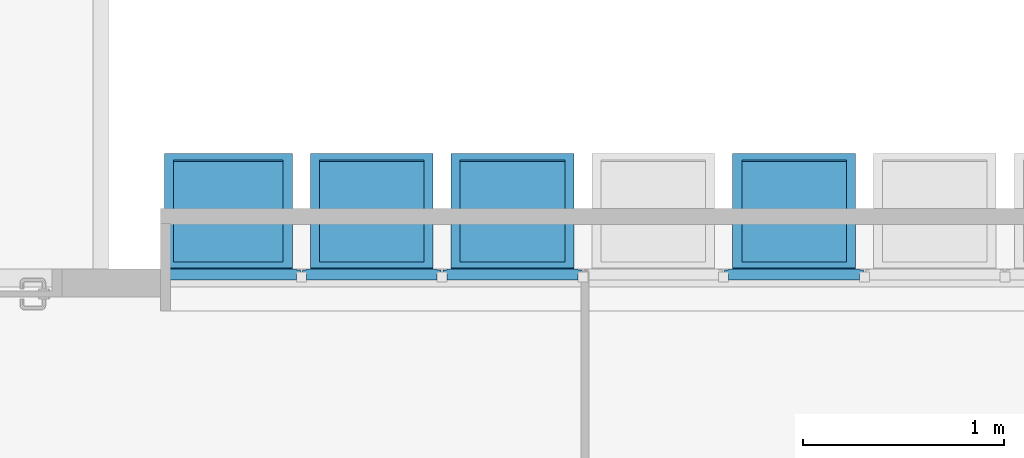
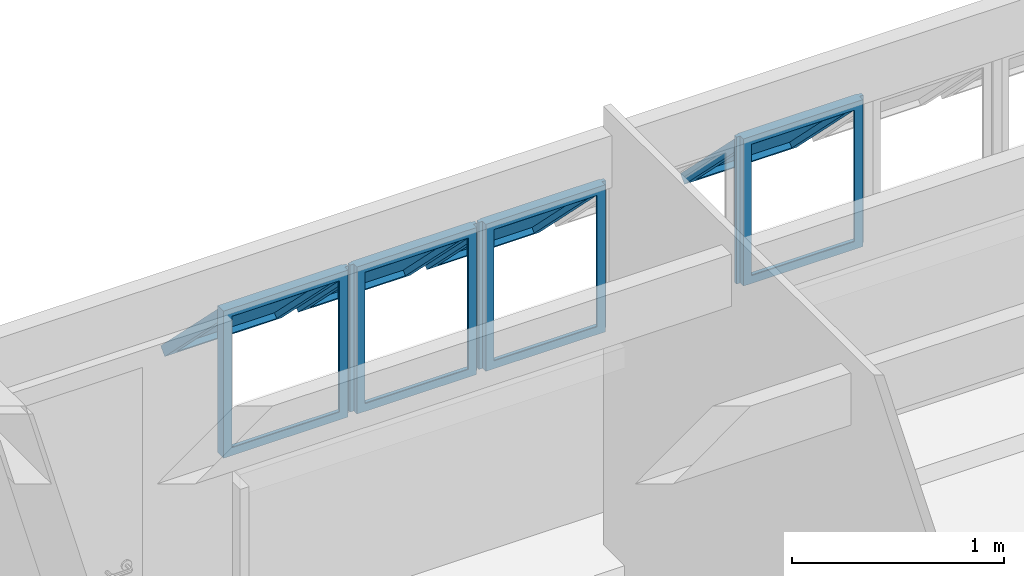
# One storey, part 9 of 40: 4 plates, 1 element without a shape of its own.
"""IFC4 building model written with IfcOpenShell, lengths in millimetres."""

from ifc_helpers import new_model, entity, si_unit, converted_unit, derived_unit, direction, frame, origin_with_axes, place, context, subcontext, project, spatial, polygons, source, transform, mapped, material, constituent, constituent_set, type_object, element, aggregate, save


model = new_model("IFC4")

# Units and contexts
model_context = context("Model", 3, precision=0.01, world=origin_with_axes(), true_north=direction((0.0, 1.0)))
body_context = subcontext(model_context, "Body", "Model", "MODEL_VIEW")
ifc_project = project(units=[si_unit("LENGTHUNIT", "METRE", prefix="MILLI"), si_unit("AREAUNIT", "SQUARE_METRE"), si_unit("VOLUMEUNIT", "CUBIC_METRE"), converted_unit("PLANEANGLEUNIT", "DEGREE", entity("IfcPlaneAngleMeasure", 0.0174532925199), si_unit("PLANEANGLEUNIT", "RADIAN"), dimensions=[0, 0, 0, 0, 0, 0, 0]), converted_unit("TIMEUNIT", "Year", entity("IfcTimeMeasure", 31556926.0), si_unit("TIMEUNIT", "SECOND"), dimensions=[0, 0, 1, 0, 0, 0, 0]), si_unit("MASSUNIT", "GRAM", prefix="KILO"), si_unit("THERMODYNAMICTEMPERATUREUNIT", "DEGREE_CELSIUS"), si_unit("LUMINOUSINTENSITYUNIT", "LUMEN"), si_unit("ENERGYUNIT", "JOULE", prefix="MEGA"), derived_unit("THERMALCONDUCTANCEUNIT", [(si_unit("POWERUNIT", "WATT"), 1), (si_unit("LENGTHUNIT", "METRE"), -1), (si_unit("THERMODYNAMICTEMPERATUREUNIT", "KELVIN"), -1)]), derived_unit("SPECIFICHEATCAPACITYUNIT", [(si_unit("ENERGYUNIT", "JOULE"), 1), (si_unit("MASSUNIT", "GRAM", prefix="KILO"), -1), (si_unit("THERMODYNAMICTEMPERATUREUNIT", "KELVIN"), -1)]), derived_unit("MASSDENSITYUNIT", [(si_unit("MASSUNIT", "GRAM", prefix="KILO"), 1), (si_unit("VOLUMEUNIT", "CUBIC_METRE"), -1)])], contexts=[model_context])

# Site, building, storey
site_placement = place(None, origin_with_axes())
site = spatial("IfcSite", under=ifc_project, at=site_placement, Name="Local", CompositionType="ELEMENT")
building_placement = place(site_placement, origin_with_axes())
building = spatial("IfcBuilding", under=site, at=building_placement, Name="Construção", CompositionType="ELEMENT")
storey_placement = place(building_placement, frame((0.0, 0.0, 5300.0), z_axis=(0.0, 0.0, 1.0), x_axis=(1.0, 0.0, 0.0)))
storey = spatial("IfcBuildingStorey", under=building, at=storey_placement, Name="Terceiro Pavimento", CompositionType="ELEMENT", Elevation=5300.0)

# Window, plates
window_type = type_object("IfcWindowType", Name="Tipo de Parede Cortina", PartitioningType="NOTDEFINED", PredefinedType="NOTDEFINED")
window_placement = place(storey_placement, frame((12020.0, 8250.0, 1355.00007107), z_axis=(0.0, 0.0, 1.0), x_axis=(1.0, 0.0, 0.0)))
window = element("IfcWindow", 1, at=window_placement, inside=storey, type_object=window_type, Name="APTO10-JANELA-000", PredefinedType="NOTDEFINED")
ifc_material_1 = material(Name="Alumínio")
ifc_constituent_1 = constituent(ifc_material_1, Name="Alumínio")
ifc_material_2 = material(Name="Vidro")
ifc_constituent_2 = constituent(ifc_material_2, Name="Vidro")
ifc_constituent_set_1 = constituent_set(constituents=[ifc_constituent_1, ifc_constituent_2])
plate_type_1 = type_object("IfcPlateType", Name="Painel Principal 690 x 845 x 20", PredefinedType="CURTAIN_PANEL")
shared_shape_1 = source(origin_with_axes(), body_context, "Body", "Tessellation", [
    polygons([(25.0000036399, 0.0, -40.0), (674.999997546, 0.0, -40.0), (674.999997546, 0.0, -35.0), (25.0000036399, 0.0, -35.0), (70.0000036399, 45.0, -40.0), (629.999997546, 45.0, -40.0), (629.999997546, 45.0, -35.0), (70.0000036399, 45.0, -35.0)], [[[1, 2, 3, 4]], [[1, 5, 6, 2]], [[2, 6, 7, 3]], [[4, 3, 7, 8]], [[5, 1, 4, 8]], [[6, 5, 8, 7]]], closed=True),
    polygons([(674.999997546, 0.0, -40.0), (674.999997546, 844.999891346, -40.0), (674.999997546, 844.999891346, -35.0), (674.999997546, 0.0, -35.0), (629.999997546, 45.0, -40.0), (629.999997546, 799.999891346, -40.0), (629.999997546, 799.999891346, -35.0), (629.999997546, 45.0, -35.0)], [[[1, 2, 3, 4]], [[1, 5, 6, 2]], [[2, 6, 7, 3]], [[4, 3, 7, 8]], [[5, 1, 4, 8]], [[6, 5, 8, 7]]], closed=True),
    polygons([(25.0000036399, 844.999891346, -40.0), (70.0000036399, 799.999891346, -40.0), (70.0000036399, 799.999891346, -35.0), (25.0000036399, 844.999891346, -35.0), (674.999997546, 844.999891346, -40.0), (629.999997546, 799.999891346, -40.0), (629.999997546, 799.999891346, -35.0), (674.999997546, 844.999891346, -35.0)], [[[1, 2, 3, 4]], [[1, 5, 6, 2]], [[2, 6, 7, 3]], [[4, 3, 7, 8]], [[5, 1, 4, 8]], [[6, 5, 8, 7]]], closed=True),
    polygons([(25.0000036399, 0.0, -40.0), (70.0000036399, 45.0, -40.0), (70.0000036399, 45.0, -35.0), (25.0000036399, 0.0, -35.0), (25.0000036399, 844.999891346, -40.0), (70.0000036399, 799.999891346, -40.0), (70.0000036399, 799.999891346, -35.0), (25.0000036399, 844.999891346, -35.0)], [[[1, 2, 3, 4]], [[1, 5, 6, 2]], [[2, 6, 7, 3]], [[4, 3, 7, 8]], [[5, 1, 4, 8]], [[6, 5, 8, 7]]], closed=True),
    polygons([(25.0000036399, 0.0, -35.0), (674.999997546, 0.0, -35.0), (674.999997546, 0.0, 15.0), (25.0000036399, 0.0, 15.0), (45.0000036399, 20.0, -35.0), (654.999997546, 20.0, -35.0), (654.999997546, 20.0, 15.0), (45.0000036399, 20.0, 15.0)], [[[1, 2, 3, 4]], [[1, 5, 6, 2]], [[2, 6, 7, 3]], [[4, 3, 7, 8]], [[5, 1, 4, 8]], [[6, 5, 8, 7]]], closed=True),
    polygons([(674.999997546, 0.0, -35.0), (674.999997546, 844.999891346, -35.0), (674.999997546, 844.999891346, 15.0), (674.999997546, 0.0, 15.0), (654.999997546, 20.0, -35.0), (654.999997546, 824.999891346, -35.0), (654.999997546, 824.999891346, 15.0), (654.999997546, 20.0, 15.0)], [[[1, 2, 3, 4]], [[1, 5, 6, 2]], [[2, 6, 7, 3]], [[4, 3, 7, 8]], [[5, 1, 4, 8]], [[6, 5, 8, 7]]], closed=True),
    polygons([(25.0000036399, 844.999891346, -35.0), (45.0000036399, 824.999891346, -35.0), (45.0000036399, 824.999891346, 15.0), (25.0000036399, 844.999891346, 15.0), (674.999997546, 844.999891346, -35.0), (654.999997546, 824.999891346, -35.0), (654.999997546, 824.999891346, 15.0), (674.999997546, 844.999891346, 15.0)], [[[1, 2, 3, 4]], [[1, 5, 6, 2]], [[2, 6, 7, 3]], [[4, 3, 7, 8]], [[5, 1, 4, 8]], [[6, 5, 8, 7]]], closed=True),
    polygons([(25.0000036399, 0.0, -35.0), (45.0000036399, 20.0, -35.0), (45.0000036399, 20.0, 15.0), (25.0000036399, 0.0, 15.0), (25.0000036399, 844.999891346, -35.0), (45.0000036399, 824.999891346, -35.0), (45.0000036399, 824.999891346, 15.0), (25.0000036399, 844.999891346, 15.0)], [[[1, 2, 3, 4]], [[1, 5, 6, 2]], [[2, 6, 7, 3]], [[4, 3, 7, 8]], [[5, 1, 4, 8]], [[6, 5, 8, 7]]], closed=True),
    polygons([(694.999995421, 0.0, -10.0), (694.999995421, 844.999891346, -10.0), (694.999995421, 844.999891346, 10.0), (694.999995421, 0.0, 10.0), (674.999997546, 0.0, -10.0), (674.999997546, 844.999891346, -10.0), (674.999997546, 844.999891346, 10.0), (674.999997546, 0.0, 10.0)], [[[1, 2, 3, 4]], [[1, 5, 6, 2]], [[2, 6, 7, 3]], [[4, 3, 7, 8]], [[5, 1, 4, 8]], [[6, 5, 8, 7]]], closed=True),
    polygons([(5.00000576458, 844.999891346, -10.0), (5.00000576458, 0.0, -10.0), (5.00000576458, 0.0, 10.0), (5.00000576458, 844.999891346, 10.0), (25.0000036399, 844.999891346, -10.0), (25.0000036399, 0.0, -10.0), (25.0000036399, 0.0, 10.0), (25.0000036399, 844.999891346, 10.0)], [[[1, 2, 3, 4]], [[1, 5, 6, 2]], [[2, 6, 7, 3]], [[4, 3, 7, 8]], [[5, 1, 4, 8]], [[6, 5, 8, 7]]], closed=True),
    polygons([(90.0000036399, 252.243475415, 517.045737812), (90.0000036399, 757.824747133, 11.4644660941), (90.0000036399, 796.715620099, 50.3553390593), (90.0000036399, 291.13434838, 555.936610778), (45.0000036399, 220.423670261, 548.865542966), (45.0000036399, 789.644552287, -20.3553390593), (45.0000036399, 828.535425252, 18.5355339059), (45.0000036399, 259.314543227, 587.756415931)], [[[1, 2, 3, 4]], [[1, 5, 6, 2]], [[2, 6, 7, 3]], [[4, 3, 7, 8]], [[5, 1, 4, 8]], [[6, 5, 8, 7]]], closed=True),
    polygons([(654.999997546, 220.423670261, 548.865542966), (654.999997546, 789.644552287, -20.3553390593), (654.999997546, 828.535425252, 18.5355339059), (654.999997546, 259.314543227, 587.756415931), (609.999997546, 252.243475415, 517.045737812), (609.999997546, 757.824747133, 11.4644660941), (609.999997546, 796.715620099, 50.3553390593), (609.999997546, 291.13434838, 555.936610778)], [[[1, 2, 3, 4]], [[1, 5, 6, 2]], [[2, 6, 7, 3]], [[4, 3, 7, 8]], [[5, 1, 4, 8]], [[6, 5, 8, 7]]], closed=True),
    polygons([(654.999997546, 220.423670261, 548.865542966), (609.999997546, 252.243475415, 517.045737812), (609.999997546, 291.13434838, 555.936610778), (654.999997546, 259.314543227, 587.756415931), (45.0000036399, 220.423670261, 548.865542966), (90.0000036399, 252.243475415, 517.045737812), (90.0000036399, 291.13434838, 555.936610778), (45.0000036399, 259.314543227, 587.756415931)], [[[1, 2, 3, 4]], [[1, 5, 6, 2]], [[2, 6, 7, 3]], [[4, 3, 7, 8]], [[5, 1, 4, 8]], [[6, 5, 8, 7]]], closed=True),
    polygons([(45.0000036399, 789.644552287, -20.3553390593), (90.0000036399, 757.824747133, 11.4644660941), (90.0000036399, 796.715620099, 50.3553390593), (45.0000036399, 828.535425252, 18.5355339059), (654.999997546, 789.644552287, -20.3553390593), (609.999997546, 757.824747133, 11.4644660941), (609.999997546, 796.715620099, 50.3553390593), (654.999997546, 828.535425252, 18.5355339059)], [[[1, 2, 3, 4]], [[1, 5, 6, 2]], [[2, 6, 7, 3]], [[4, 3, 7, 8]], [[5, 1, 4, 8]], [[6, 5, 8, 7]]], closed=True),
    polygons([(90.0000036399, 272.749572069, 537.551834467), (609.999997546, 272.749572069, 537.551834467), (609.999997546, 284.063280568, 548.865542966), (90.0000036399, 284.063280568, 548.865542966), (90.0000036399, 778.330843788, 31.9705627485), (609.999997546, 778.330843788, 31.9705627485), (609.999997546, 789.644552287, 43.2842712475), (90.0000036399, 789.644552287, 43.2842712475)], [[[1, 2, 3, 4]], [[1, 5, 6, 2]], [[2, 6, 7, 3]], [[4, 3, 7, 8]], [[5, 1, 4, 8]], [[6, 5, 8, 7]]], closed=True),
])
plate_1_placement = place(window_placement, frame((0.0, 0.0, 422.499964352), z_axis=(0.0, 0.0, 1.0), x_axis=(1.0, 0.0, 0.0)))
plate_1 = element("IfcPlate", 2, at=plate_1_placement, type_object=plate_type_1, material=ifc_constituent_set_1, Name="APTO10-Painel-Prin-013", PredefinedType="CURTAIN_PANEL", context=body_context, shape_type="MappedRepresentation", body=[
    mapped(shared_shape_1, transform((350.0, 0.0, -422.499964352), x_axis=(-1.0, 0.0, 0.0), y_axis=(0.0, 0.0, 1.0), z_axis=(0.0, 1.0, 0.0))),
])
ifc_constituent_3 = constituent(ifc_material_1, Name="Alumínio")
ifc_constituent_4 = constituent(ifc_material_2, Name="Vidro")
ifc_constituent_set_2 = constituent_set(constituents=[ifc_constituent_3, ifc_constituent_4])
plate_2_placement = place(window_placement, frame((-2100.0, 0.0, 422.499964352), z_axis=(0.0, 0.0, 1.0), x_axis=(1.0, 0.0, 0.0)))
plate_2 = element("IfcPlate", 3, at=plate_2_placement, type_object=plate_type_1, material=ifc_constituent_set_2, Name="APTO10-Painel-Prin-029", PredefinedType="CURTAIN_PANEL", context=body_context, shape_type="MappedRepresentation", body=[
    mapped(shared_shape_1, transform((350.0, 0.0, -422.499964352), x_axis=(-1.0, 0.0, 0.0), y_axis=(0.0, 0.0, 1.0), z_axis=(0.0, 1.0, 0.0))),
])
ifc_constituent_5 = constituent(ifc_material_1, Name="Alumínio")
ifc_constituent_6 = constituent(ifc_material_2, Name="Vidro")
ifc_constituent_set_3 = constituent_set(constituents=[ifc_constituent_5, ifc_constituent_6])
shared_shape_2 = source(origin_with_axes(), body_context, "Body", "Tessellation", [
    polygons([(25.0000036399, 0.0, -40.0), (674.999997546, 0.0, -40.0), (674.999997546, 0.0, -35.0), (25.0000036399, 0.0, -35.0), (70.0000036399, 45.0, -40.0), (629.999997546, 45.0, -40.0), (629.999997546, 45.0, -35.0), (70.0000036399, 45.0, -35.0)], [[[1, 2, 3, 4]], [[1, 5, 6, 2]], [[2, 6, 7, 3]], [[4, 3, 7, 8]], [[5, 1, 4, 8]], [[6, 5, 8, 7]]], closed=True),
    polygons([(674.999997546, 0.0, -40.0), (674.999997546, 844.999891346, -40.0), (674.999997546, 844.999891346, -35.0), (674.999997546, 0.0, -35.0), (629.999997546, 45.0, -40.0), (629.999997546, 799.999891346, -40.0), (629.999997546, 799.999891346, -35.0), (629.999997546, 45.0, -35.0)], [[[1, 2, 3, 4]], [[1, 5, 6, 2]], [[2, 6, 7, 3]], [[4, 3, 7, 8]], [[5, 1, 4, 8]], [[6, 5, 8, 7]]], closed=True),
    polygons([(25.0000036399, 844.999891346, -40.0), (70.0000036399, 799.999891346, -40.0), (70.0000036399, 799.999891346, -35.0), (25.0000036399, 844.999891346, -35.0), (674.999997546, 844.999891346, -40.0), (629.999997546, 799.999891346, -40.0), (629.999997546, 799.999891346, -35.0), (674.999997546, 844.999891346, -35.0)], [[[1, 2, 3, 4]], [[1, 5, 6, 2]], [[2, 6, 7, 3]], [[4, 3, 7, 8]], [[5, 1, 4, 8]], [[6, 5, 8, 7]]], closed=True),
    polygons([(25.0000036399, 0.0, -40.0), (70.0000036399, 45.0, -40.0), (70.0000036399, 45.0, -35.0), (25.0000036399, 0.0, -35.0), (25.0000036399, 844.999891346, -40.0), (70.0000036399, 799.999891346, -40.0), (70.0000036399, 799.999891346, -35.0), (25.0000036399, 844.999891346, -35.0)], [[[1, 2, 3, 4]], [[1, 5, 6, 2]], [[2, 6, 7, 3]], [[4, 3, 7, 8]], [[5, 1, 4, 8]], [[6, 5, 8, 7]]], closed=True),
    polygons([(25.0000036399, 0.0, -35.0), (674.999997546, 0.0, -35.0), (674.999997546, 0.0, 15.0), (25.0000036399, 0.0, 15.0), (45.0000036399, 20.0, -35.0), (654.999997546, 20.0, -35.0), (654.999997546, 20.0, 15.0), (45.0000036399, 20.0, 15.0)], [[[1, 2, 3, 4]], [[1, 5, 6, 2]], [[2, 6, 7, 3]], [[4, 3, 7, 8]], [[5, 1, 4, 8]], [[6, 5, 8, 7]]], closed=True),
    polygons([(674.999997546, 0.0, -35.0), (674.999997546, 844.999891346, -35.0), (674.999997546, 844.999891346, 15.0), (674.999997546, 0.0, 15.0), (654.999997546, 20.0, -35.0), (654.999997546, 824.999891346, -35.0), (654.999997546, 824.999891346, 15.0), (654.999997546, 20.0, 15.0)], [[[1, 2, 3, 4]], [[1, 5, 6, 2]], [[2, 6, 7, 3]], [[4, 3, 7, 8]], [[5, 1, 4, 8]], [[6, 5, 8, 7]]], closed=True),
    polygons([(25.0000036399, 844.999891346, -35.0), (45.0000036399, 824.999891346, -35.0), (45.0000036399, 824.999891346, 15.0), (25.0000036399, 844.999891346, 15.0), (674.999997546, 844.999891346, -35.0), (654.999997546, 824.999891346, -35.0), (654.999997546, 824.999891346, 15.0), (674.999997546, 844.999891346, 15.0)], [[[1, 2, 3, 4]], [[1, 5, 6, 2]], [[2, 6, 7, 3]], [[4, 3, 7, 8]], [[5, 1, 4, 8]], [[6, 5, 8, 7]]], closed=True),
    polygons([(25.0000036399, 0.0, -35.0), (45.0000036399, 20.0, -35.0), (45.0000036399, 20.0, 15.0), (25.0000036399, 0.0, 15.0), (25.0000036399, 844.999891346, -35.0), (45.0000036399, 824.999891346, -35.0), (45.0000036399, 824.999891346, 15.0), (25.0000036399, 844.999891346, 15.0)], [[[1, 2, 3, 4]], [[1, 5, 6, 2]], [[2, 6, 7, 3]], [[4, 3, 7, 8]], [[5, 1, 4, 8]], [[6, 5, 8, 7]]], closed=True),
    polygons([(694.999995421, 0.0, -10.0), (694.999995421, 844.999891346, -10.0), (694.999995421, 844.999891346, 10.0), (694.999995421, 0.0, 10.0), (674.999997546, 0.0, -10.0), (674.999997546, 844.999891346, -10.0), (674.999997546, 844.999891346, 10.0), (674.999997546, 0.0, 10.0)], [[[1, 2, 3, 4]], [[1, 5, 6, 2]], [[2, 6, 7, 3]], [[4, 3, 7, 8]], [[5, 1, 4, 8]], [[6, 5, 8, 7]]], closed=True),
    polygons([(5.00000576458, 844.999891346, -10.0), (5.00000576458, 0.0, -10.0), (5.00000576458, 0.0, 10.0), (5.00000576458, 844.999891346, 10.0), (25.0000036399, 844.999891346, -10.0), (25.0000036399, 0.0, -10.0), (25.0000036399, 0.0, 10.0), (25.0000036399, 844.999891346, 10.0)], [[[1, 2, 3, 4]], [[1, 5, 6, 2]], [[2, 6, 7, 3]], [[4, 3, 7, 8]], [[5, 1, 4, 8]], [[6, 5, 8, 7]]], closed=True),
    polygons([(90.0000036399, 252.243475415, 517.045737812), (90.0000036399, 757.824747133, 11.4644660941), (90.0000036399, 796.715620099, 50.3553390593), (90.0000036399, 291.13434838, 555.936610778), (45.0000036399, 220.423670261, 548.865542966), (45.0000036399, 789.644552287, -20.3553390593), (45.0000036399, 828.535425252, 18.5355339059), (45.0000036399, 259.314543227, 587.756415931)], [[[1, 2, 3, 4]], [[1, 5, 6, 2]], [[2, 6, 7, 3]], [[4, 3, 7, 8]], [[5, 1, 4, 8]], [[6, 5, 8, 7]]], closed=True),
    polygons([(654.999997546, 220.423670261, 548.865542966), (654.999997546, 789.644552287, -20.3553390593), (654.999997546, 828.535425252, 18.5355339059), (654.999997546, 259.314543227, 587.756415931), (609.999997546, 252.243475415, 517.045737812), (609.999997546, 757.824747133, 11.4644660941), (609.999997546, 796.715620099, 50.3553390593), (609.999997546, 291.13434838, 555.936610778)], [[[1, 2, 3, 4]], [[1, 5, 6, 2]], [[2, 6, 7, 3]], [[4, 3, 7, 8]], [[5, 1, 4, 8]], [[6, 5, 8, 7]]], closed=True),
    polygons([(654.999997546, 220.423670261, 548.865542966), (609.999997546, 252.243475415, 517.045737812), (609.999997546, 291.13434838, 555.936610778), (654.999997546, 259.314543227, 587.756415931), (45.0000036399, 220.423670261, 548.865542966), (90.0000036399, 252.243475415, 517.045737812), (90.0000036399, 291.13434838, 555.936610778), (45.0000036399, 259.314543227, 587.756415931)], [[[1, 2, 3, 4]], [[1, 5, 6, 2]], [[2, 6, 7, 3]], [[4, 3, 7, 8]], [[5, 1, 4, 8]], [[6, 5, 8, 7]]], closed=True),
    polygons([(45.0000036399, 789.644552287, -20.3553390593), (90.0000036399, 757.824747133, 11.4644660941), (90.0000036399, 796.715620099, 50.3553390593), (45.0000036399, 828.535425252, 18.5355339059), (654.999997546, 789.644552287, -20.3553390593), (609.999997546, 757.824747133, 11.4644660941), (609.999997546, 796.715620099, 50.3553390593), (654.999997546, 828.535425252, 18.5355339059)], [[[1, 2, 3, 4]], [[1, 5, 6, 2]], [[2, 6, 7, 3]], [[4, 3, 7, 8]], [[5, 1, 4, 8]], [[6, 5, 8, 7]]], closed=True),
    polygons([(90.0000036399, 272.749572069, 537.551834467), (609.999997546, 272.749572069, 537.551834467), (609.999997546, 284.063280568, 548.865542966), (90.0000036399, 284.063280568, 548.865542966), (90.0000036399, 778.330843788, 31.9705627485), (609.999997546, 778.330843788, 31.9705627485), (609.999997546, 789.644552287, 43.2842712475), (90.0000036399, 789.644552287, 43.2842712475)], [[[1, 2, 3, 4]], [[1, 5, 6, 2]], [[2, 6, 7, 3]], [[4, 3, 7, 8]], [[5, 1, 4, 8]], [[6, 5, 8, 7]]], closed=True),
])
plate_3_placement = place(window_placement, frame((-1400.0, 0.0, 422.499964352), z_axis=(0.0, 0.0, 1.0), x_axis=(1.0, 0.0, 0.0)))
plate_3 = element("IfcPlate", 4, at=plate_3_placement, type_object=plate_type_1, material=ifc_constituent_set_3, Name="APTO10-Painel-Prin-025", PredefinedType="CURTAIN_PANEL", context=body_context, shape_type="MappedRepresentation", body=[
    mapped(shared_shape_2, transform((350.0, 0.0, -422.499964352), x_axis=(-1.0, 0.0, 0.0), y_axis=(0.0, 0.0, 1.0), z_axis=(0.0, 1.0, 0.0))),
])
ifc_constituent_7 = constituent(ifc_material_1, Name="Alumínio")
ifc_constituent_8 = constituent(ifc_material_2, Name="Vidro")
ifc_constituent_set_4 = constituent_set(constituents=[ifc_constituent_7, ifc_constituent_8])
plate_type_2 = type_object("IfcPlateType", Name="Painel Principal 695 x 845 x 20", PredefinedType="CURTAIN_PANEL")
shared_shape_3 = source(origin_with_axes(), body_context, "Body", "Tessellation", [
    polygons([(25.0000062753, 0.0, -40.0), (699.999999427, 0.0, -40.0), (699.999999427, 0.0, -35.0), (25.0000062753, 0.0, -35.0), (70.0000062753, 45.0, -40.0), (654.999999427, 45.0, -40.0), (654.999999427, 45.0, -35.0), (70.0000062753, 45.0, -35.0)], [[[1, 2, 3, 4]], [[1, 5, 6, 2]], [[2, 6, 7, 3]], [[4, 3, 7, 8]], [[5, 1, 4, 8]], [[6, 5, 8, 7]]], closed=True),
    polygons([(699.999999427, 0.0, -40.0), (699.999999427, 844.999980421, -40.0), (699.999999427, 844.999980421, -35.0), (699.999999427, 0.0, -35.0), (654.999999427, 45.0, -40.0), (654.999999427, 799.999980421, -40.0), (654.999999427, 799.999980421, -35.0), (654.999999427, 45.0, -35.0)], [[[1, 2, 3, 4]], [[1, 5, 6, 2]], [[2, 6, 7, 3]], [[4, 3, 7, 8]], [[5, 1, 4, 8]], [[6, 5, 8, 7]]], closed=True),
    polygons([(25.0000062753, 844.999980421, -40.0), (70.0000062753, 799.999980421, -40.0), (70.0000062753, 799.999980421, -35.0), (25.0000062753, 844.999980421, -35.0), (699.999999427, 844.999980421, -40.0), (654.999999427, 799.999980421, -40.0), (654.999999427, 799.999980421, -35.0), (699.999999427, 844.999980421, -35.0)], [[[1, 2, 3, 4]], [[1, 5, 6, 2]], [[2, 6, 7, 3]], [[4, 3, 7, 8]], [[5, 1, 4, 8]], [[6, 5, 8, 7]]], closed=True),
    polygons([(25.0000062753, 0.0, -40.0), (70.0000062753, 45.0, -40.0), (70.0000062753, 45.0, -35.0), (25.0000062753, 0.0, -35.0), (25.0000062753, 844.999980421, -40.0), (70.0000062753, 799.999980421, -40.0), (70.0000062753, 799.999980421, -35.0), (25.0000062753, 844.999980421, -35.0)], [[[1, 2, 3, 4]], [[1, 5, 6, 2]], [[2, 6, 7, 3]], [[4, 3, 7, 8]], [[5, 1, 4, 8]], [[6, 5, 8, 7]]], closed=True),
    polygons([(25.0000062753, 0.0, -35.0), (699.999999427, 0.0, -35.0), (699.999999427, 0.0, 15.0), (25.0000062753, 0.0, 15.0), (45.0000062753, 20.0, -35.0), (679.999999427, 20.0, -35.0), (679.999999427, 20.0, 15.0), (45.0000062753, 20.0, 15.0)], [[[1, 2, 3, 4]], [[1, 5, 6, 2]], [[2, 6, 7, 3]], [[4, 3, 7, 8]], [[5, 1, 4, 8]], [[6, 5, 8, 7]]], closed=True),
    polygons([(699.999999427, 0.0, -35.0), (699.999999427, 844.999980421, -35.0), (699.999999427, 844.999980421, 15.0), (699.999999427, 0.0, 15.0), (679.999999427, 20.0, -35.0), (679.999999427, 824.999980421, -35.0), (679.999999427, 824.999980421, 15.0), (679.999999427, 20.0, 15.0)], [[[1, 2, 3, 4]], [[1, 5, 6, 2]], [[2, 6, 7, 3]], [[4, 3, 7, 8]], [[5, 1, 4, 8]], [[6, 5, 8, 7]]], closed=True),
    polygons([(25.0000062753, 844.999980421, -35.0), (45.0000062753, 824.999980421, -35.0), (45.0000062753, 824.999980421, 15.0), (25.0000062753, 844.999980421, 15.0), (699.999999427, 844.999980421, -35.0), (679.999999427, 824.999980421, -35.0), (679.999999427, 824.999980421, 15.0), (699.999999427, 844.999980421, 15.0)], [[[1, 2, 3, 4]], [[1, 5, 6, 2]], [[2, 6, 7, 3]], [[4, 3, 7, 8]], [[5, 1, 4, 8]], [[6, 5, 8, 7]]], closed=True),
    polygons([(25.0000062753, 0.0, -35.0), (45.0000062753, 20.0, -35.0), (45.0000062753, 20.0, 15.0), (25.0000062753, 0.0, 15.0), (25.0000062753, 844.999980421, -35.0), (45.0000062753, 824.999980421, -35.0), (45.0000062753, 824.999980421, 15.0), (25.0000062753, 844.999980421, 15.0)], [[[1, 2, 3, 4]], [[1, 5, 6, 2]], [[2, 6, 7, 3]], [[4, 3, 7, 8]], [[5, 1, 4, 8]], [[6, 5, 8, 7]]], closed=True),
    polygons([(5.00000629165, 844.999980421, -10.0), (5.00000629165, 0.0, -10.0), (5.00000629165, 0.0, 10.0), (5.00000629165, 844.999980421, 10.0), (25.0000062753, 844.999980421, -10.0), (25.0000062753, 0.0, -10.0), (25.0000062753, 0.0, 10.0), (25.0000062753, 844.999980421, 10.0)], [[[1, 2, 3, 4]], [[1, 5, 6, 2]], [[2, 6, 7, 3]], [[4, 3, 7, 8]], [[5, 1, 4, 8]], [[6, 5, 8, 7]]], closed=True),
    polygons([(90.0000062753, 252.243501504, 517.045800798), (90.0000062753, 757.824836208, 11.4644660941), (90.0000062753, 796.715709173, 50.3553390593), (90.0000062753, 291.134374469, 555.936673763), (45.0000062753, 220.423696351, 548.865605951), (45.0000062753, 789.644641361, -20.3553390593), (45.0000062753, 828.535514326, 18.5355339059), (45.0000062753, 259.314569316, 587.756478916)], [[[1, 2, 3, 4]], [[1, 5, 6, 2]], [[2, 6, 7, 3]], [[4, 3, 7, 8]], [[5, 1, 4, 8]], [[6, 5, 8, 7]]], closed=True),
    polygons([(679.999999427, 220.423696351, 548.865605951), (679.999999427, 789.644641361, -20.3553390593), (679.999999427, 828.535514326, 18.5355339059), (679.999999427, 259.314569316, 587.756478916), (634.999999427, 252.243501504, 517.045800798), (634.999999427, 757.824836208, 11.4644660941), (634.999999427, 796.715709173, 50.3553390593), (634.999999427, 291.134374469, 555.936673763)], [[[1, 2, 3, 4]], [[1, 5, 6, 2]], [[2, 6, 7, 3]], [[4, 3, 7, 8]], [[5, 1, 4, 8]], [[6, 5, 8, 7]]], closed=True),
    polygons([(679.999999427, 220.423696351, 548.865605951), (634.999999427, 252.243501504, 517.045800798), (634.999999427, 291.134374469, 555.936673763), (679.999999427, 259.314569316, 587.756478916), (45.0000062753, 220.423696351, 548.865605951), (90.0000062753, 252.243501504, 517.045800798), (90.0000062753, 291.134374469, 555.936673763), (45.0000062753, 259.314569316, 587.756478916)], [[[1, 2, 3, 4]], [[1, 5, 6, 2]], [[2, 6, 7, 3]], [[4, 3, 7, 8]], [[5, 1, 4, 8]], [[6, 5, 8, 7]]], closed=True),
    polygons([(45.0000062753, 789.644641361, -20.3553390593), (90.0000062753, 757.824836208, 11.4644660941), (90.0000062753, 796.715709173, 50.3553390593), (45.0000062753, 828.535514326, 18.5355339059), (679.999999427, 789.644641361, -20.3553390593), (634.999999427, 757.824836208, 11.4644660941), (634.999999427, 796.715709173, 50.3553390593), (679.999999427, 828.535514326, 18.5355339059)], [[[1, 2, 3, 4]], [[1, 5, 6, 2]], [[2, 6, 7, 3]], [[4, 3, 7, 8]], [[5, 1, 4, 8]], [[6, 5, 8, 7]]], closed=True),
    polygons([(90.0000062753, 272.749598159, 537.551897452), (634.999999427, 272.749598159, 537.551897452), (634.999999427, 284.063306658, 548.865605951), (90.0000062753, 284.063306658, 548.865605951), (90.0000062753, 778.330932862, 31.9705627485), (634.999999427, 778.330932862, 31.9705627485), (634.999999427, 789.644641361, 43.2842712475), (90.0000062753, 789.644641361, 43.2842712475)], [[[1, 2, 3, 4]], [[1, 5, 6, 2]], [[2, 6, 7, 3]], [[4, 3, 7, 8]], [[5, 1, 4, 8]], [[6, 5, 8, 7]]], closed=True),
])
plate_4_placement = place(window_placement, frame((-2800.0, 0.0, 422.499986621), z_axis=(0.0, 0.0, 1.0), x_axis=(1.0, 0.0, 0.0)))
plate_4 = element("IfcPlate", 5, at=plate_4_placement, type_object=plate_type_2, material=ifc_constituent_set_4, Name="APTO10-Painel-Prin-020", PredefinedType="CURTAIN_PANEL", context=body_context, shape_type="MappedRepresentation", body=[
    mapped(shared_shape_3, transform((350.0, 0.0, -422.499986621), x_axis=(-1.0, 0.0, 0.0), y_axis=(0.0, 0.0, 1.0), z_axis=(0.0, 1.0, 0.0))),
])
aggregate(window, [plate_1, plate_2, plate_3, plate_4])

save(model, "model.ifc")
